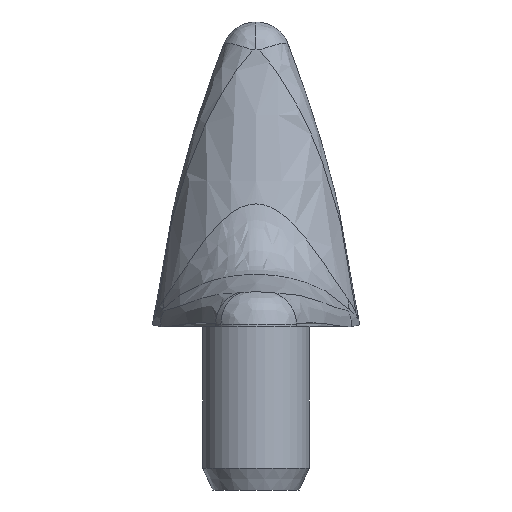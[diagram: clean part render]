
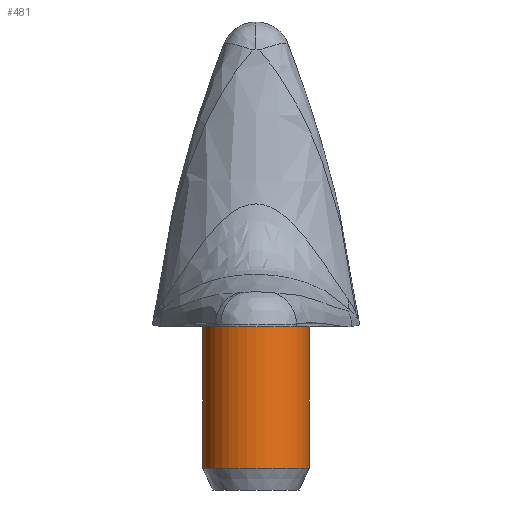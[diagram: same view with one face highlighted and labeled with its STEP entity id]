
A CAD part, front view. The second image highlights one B-rep face of the part: STEP entity #481.
In plain terms, the highlighted cylindrical face has radius 2.45 mm (diameter 4.9 mm), a partial arc.
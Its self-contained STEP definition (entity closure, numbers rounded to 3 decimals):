
#22 = CARTESIAN_POINT ( 'NONE',  ( 0., -2.5, -7.5 ) ) ;
#41 = ORIENTED_EDGE ( 'NONE', *, *, #1444, .F. ) ;
#164 = VECTOR ( 'NONE', #1601, 1000. ) ;
#286 = LINE ( 'NONE', #1762, #164 ) ;
#325 = DIRECTION ( 'NONE',  ( -1., 0., 0. ) ) ;
#459 = VERTEX_POINT ( 'NONE', #1252 ) ;
#481 = ADVANCED_FACE ( 'NONE', ( #1956 ), #496, .T. ) ;
#495 = VERTEX_POINT ( 'NONE', #1311 ) ;
#496 = CYLINDRICAL_SURFACE ( 'NONE', #645, 2.45 ) ;
#511 = EDGE_CURVE ( 'NONE', #1388, #495, #1621, .T. ) ;
#572 = CIRCLE ( 'NONE', #1110, 2.45 ) ;
#645 = AXIS2_PLACEMENT_3D ( 'NONE', #22, #1160, #1320 ) ;
#793 = DIRECTION ( 'NONE',  ( 0., 0., 1. ) ) ;
#837 = CIRCLE ( 'NONE', #946, 2.45 ) ;
#946 = AXIS2_PLACEMENT_3D ( 'NONE', #1493, #1129, #325 ) ;
#965 = ORIENTED_EDGE ( 'NONE', *, *, #511, .T. ) ;
#1110 = AXIS2_PLACEMENT_3D ( 'NONE', #1424, #2056, #2030 ) ;
#1129 = DIRECTION ( 'NONE',  ( 0., 0., -1. ) ) ;
#1160 = DIRECTION ( 'NONE',  ( 0., 0., 1. ) ) ;
#1252 = CARTESIAN_POINT ( 'NONE',  ( -2.45, -2.5, 0. ) ) ;
#1285 = CARTESIAN_POINT ( 'NONE',  ( 2.45, -2.5, -6.5 ) ) ;
#1311 = CARTESIAN_POINT ( 'NONE',  ( 2.45, -2.5, 0. ) ) ;
#1320 = DIRECTION ( 'NONE',  ( 1., 0., 0. ) ) ;
#1388 = VERTEX_POINT ( 'NONE', #1285 ) ;
#1424 = CARTESIAN_POINT ( 'NONE',  ( 0., -2.5, -6.5 ) ) ;
#1444 = EDGE_CURVE ( 'NONE', #1447, #459, #286, .T. ) ;
#1447 = VERTEX_POINT ( 'NONE', #1868 ) ;
#1493 = CARTESIAN_POINT ( 'NONE',  ( 0., -2.5, 0. ) ) ;
#1552 = ORIENTED_EDGE ( 'NONE', *, *, #1786, .T. ) ;
#1601 = DIRECTION ( 'NONE',  ( 0., 0., 1. ) ) ;
#1621 = LINE ( 'NONE', #1937, #2047 ) ;
#1686 = ORIENTED_EDGE ( 'NONE', *, *, #1726, .T. ) ;
#1726 = EDGE_CURVE ( 'NONE', #1447, #1388, #572, .T. ) ;
#1762 = CARTESIAN_POINT ( 'NONE',  ( -2.45, -2.5, -7.5 ) ) ;
#1786 = EDGE_CURVE ( 'NONE', #495, #459, #837, .T. ) ;
#1868 = CARTESIAN_POINT ( 'NONE',  ( -2.45, -2.5, -6.5 ) ) ;
#1937 = CARTESIAN_POINT ( 'NONE',  ( 2.45, -2.5, -7.5 ) ) ;
#1956 = FACE_OUTER_BOUND ( 'NONE', #2072, .T. ) ;
#2030 = DIRECTION ( 'NONE',  ( -1., 0., 0. ) ) ;
#2047 = VECTOR ( 'NONE', #793, 1000. ) ;
#2056 = DIRECTION ( 'NONE',  ( 0., 0., 1. ) ) ;
#2072 = EDGE_LOOP ( 'NONE', ( #41, #1686, #965, #1552 ) ) ;
